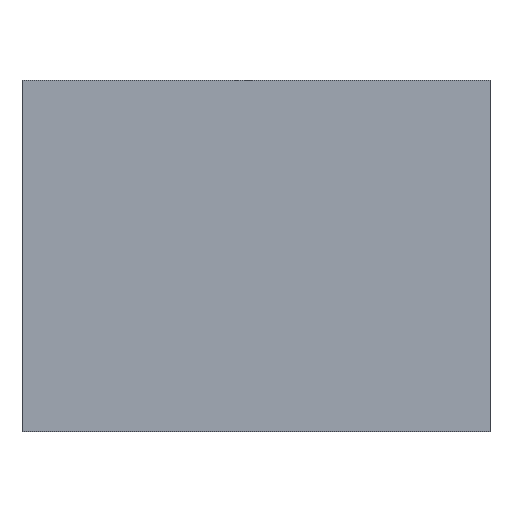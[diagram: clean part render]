
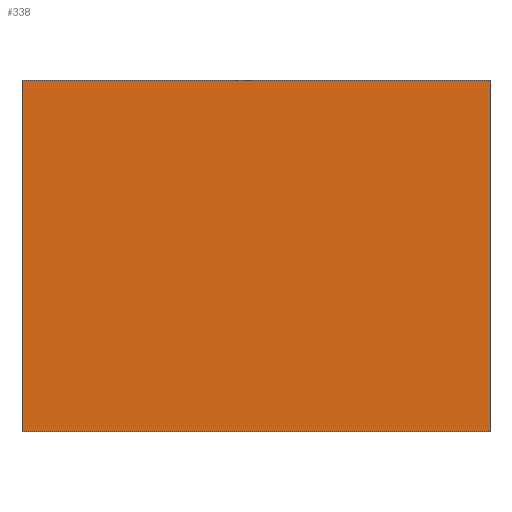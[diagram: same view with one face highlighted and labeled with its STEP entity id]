
A CAD part, top view. The second image highlights one B-rep face of the part: STEP entity #338.
In plain terms, the highlighted planar face has unit normal (0, 0, 1).
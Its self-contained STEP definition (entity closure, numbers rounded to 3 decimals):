
#24 = VERTEX_POINT('',#25);
#25 = CARTESIAN_POINT('',(-20.536,-15.408,0.));
#32 = PLANE('',#33);
#33 = AXIS2_PLACEMENT_3D('',#34,#35,#36);
#34 = CARTESIAN_POINT('',(-20.536,-15.408,-21.));
#35 = DIRECTION('',(1.,0.,0.));
#36 = DIRECTION('',(0.,0.,1.));
#44 = PLANE('',#45);
#45 = AXIS2_PLACEMENT_3D('',#46,#47,#48);
#46 = CARTESIAN_POINT('',(-20.536,-15.408,-21.));
#47 = DIRECTION('',(0.,1.,0.));
#48 = DIRECTION('',(0.,0.,1.));
#85 = VERTEX_POINT('',#86);
#86 = CARTESIAN_POINT('',(-20.536,15.408,0.));
#100 = PLANE('',#101);
#101 = AXIS2_PLACEMENT_3D('',#102,#103,#104);
#102 = CARTESIAN_POINT('',(-20.536,15.408,-21.));
#103 = DIRECTION('',(0.,1.,0.));
#104 = DIRECTION('',(0.,0.,1.));
#112 = EDGE_CURVE('',#24,#85,#113,.T.);
#113 = SURFACE_CURVE('',#114,(#118,#125),.PCURVE_S1.);
#114 = LINE('',#115,#116);
#115 = CARTESIAN_POINT('',(-20.536,-15.408,0.));
#116 = VECTOR('',#117,1.);
#117 = DIRECTION('',(0.,1.,0.));
#118 = PCURVE('',#32,#119);
#119 = DEFINITIONAL_REPRESENTATION('',(#120),#124);
#120 = LINE('',#121,#122);
#121 = CARTESIAN_POINT('',(21.,0.));
#122 = VECTOR('',#123,1.);
#123 = DIRECTION('',(0.,-1.));
#124 = ( GEOMETRIC_REPRESENTATION_CONTEXT(2) 
PARAMETRIC_REPRESENTATION_CONTEXT() REPRESENTATION_CONTEXT('2D SPACE',''
  ) );
#125 = PCURVE('',#126,#131);
#126 = PLANE('',#127);
#127 = AXIS2_PLACEMENT_3D('',#128,#129,#130);
#128 = CARTESIAN_POINT('',(-20.536,-15.408,0.));
#129 = DIRECTION('',(0.,0.,1.));
#130 = DIRECTION('',(1.,0.,0.));
#131 = DEFINITIONAL_REPRESENTATION('',(#132),#136);
#132 = LINE('',#133,#134);
#133 = CARTESIAN_POINT('',(0.,0.));
#134 = VECTOR('',#135,1.);
#135 = DIRECTION('',(0.,1.));
#136 = ( GEOMETRIC_REPRESENTATION_CONTEXT(2) 
PARAMETRIC_REPRESENTATION_CONTEXT() REPRESENTATION_CONTEXT('2D SPACE',''
  ) );
#144 = VERTEX_POINT('',#145);
#145 = CARTESIAN_POINT('',(20.536,-15.408,0.));
#152 = PLANE('',#153);
#153 = AXIS2_PLACEMENT_3D('',#154,#155,#156);
#154 = CARTESIAN_POINT('',(20.536,-15.408,-21.));
#155 = DIRECTION('',(1.,0.,0.));
#156 = DIRECTION('',(0.,0.,1.));
#195 = VERTEX_POINT('',#196);
#196 = CARTESIAN_POINT('',(20.536,15.408,0.));
#217 = EDGE_CURVE('',#144,#195,#218,.T.);
#218 = SURFACE_CURVE('',#219,(#223,#230),.PCURVE_S1.);
#219 = LINE('',#220,#221);
#220 = CARTESIAN_POINT('',(20.536,-15.408,0.));
#221 = VECTOR('',#222,1.);
#222 = DIRECTION('',(0.,1.,0.));
#223 = PCURVE('',#152,#224);
#224 = DEFINITIONAL_REPRESENTATION('',(#225),#229);
#225 = LINE('',#226,#227);
#226 = CARTESIAN_POINT('',(21.,0.));
#227 = VECTOR('',#228,1.);
#228 = DIRECTION('',(0.,-1.));
#229 = ( GEOMETRIC_REPRESENTATION_CONTEXT(2) 
PARAMETRIC_REPRESENTATION_CONTEXT() REPRESENTATION_CONTEXT('2D SPACE',''
  ) );
#230 = PCURVE('',#126,#231);
#231 = DEFINITIONAL_REPRESENTATION('',(#232),#236);
#232 = LINE('',#233,#234);
#233 = CARTESIAN_POINT('',(41.071,0.));
#234 = VECTOR('',#235,1.);
#235 = DIRECTION('',(0.,1.));
#236 = ( GEOMETRIC_REPRESENTATION_CONTEXT(2) 
PARAMETRIC_REPRESENTATION_CONTEXT() REPRESENTATION_CONTEXT('2D SPACE',''
  ) );
#263 = EDGE_CURVE('',#24,#144,#264,.T.);
#264 = SURFACE_CURVE('',#265,(#269,#276),.PCURVE_S1.);
#265 = LINE('',#266,#267);
#266 = CARTESIAN_POINT('',(-20.536,-15.408,0.));
#267 = VECTOR('',#268,1.);
#268 = DIRECTION('',(1.,0.,0.));
#269 = PCURVE('',#44,#270);
#270 = DEFINITIONAL_REPRESENTATION('',(#271),#275);
#271 = LINE('',#272,#273);
#272 = CARTESIAN_POINT('',(21.,0.));
#273 = VECTOR('',#274,1.);
#274 = DIRECTION('',(0.,1.));
#275 = ( GEOMETRIC_REPRESENTATION_CONTEXT(2) 
PARAMETRIC_REPRESENTATION_CONTEXT() REPRESENTATION_CONTEXT('2D SPACE',''
  ) );
#276 = PCURVE('',#126,#277);
#277 = DEFINITIONAL_REPRESENTATION('',(#278),#282);
#278 = LINE('',#279,#280);
#279 = CARTESIAN_POINT('',(0.,0.));
#280 = VECTOR('',#281,1.);
#281 = DIRECTION('',(1.,0.));
#282 = ( GEOMETRIC_REPRESENTATION_CONTEXT(2) 
PARAMETRIC_REPRESENTATION_CONTEXT() REPRESENTATION_CONTEXT('2D SPACE',''
  ) );
#310 = EDGE_CURVE('',#85,#195,#311,.T.);
#311 = SURFACE_CURVE('',#312,(#316,#323),.PCURVE_S1.);
#312 = LINE('',#313,#314);
#313 = CARTESIAN_POINT('',(-20.536,15.408,0.));
#314 = VECTOR('',#315,1.);
#315 = DIRECTION('',(1.,0.,0.));
#316 = PCURVE('',#100,#317);
#317 = DEFINITIONAL_REPRESENTATION('',(#318),#322);
#318 = LINE('',#319,#320);
#319 = CARTESIAN_POINT('',(21.,0.));
#320 = VECTOR('',#321,1.);
#321 = DIRECTION('',(0.,1.));
#322 = ( GEOMETRIC_REPRESENTATION_CONTEXT(2) 
PARAMETRIC_REPRESENTATION_CONTEXT() REPRESENTATION_CONTEXT('2D SPACE',''
  ) );
#323 = PCURVE('',#126,#324);
#324 = DEFINITIONAL_REPRESENTATION('',(#325),#329);
#325 = LINE('',#326,#327);
#326 = CARTESIAN_POINT('',(0.,30.815));
#327 = VECTOR('',#328,1.);
#328 = DIRECTION('',(1.,0.));
#329 = ( GEOMETRIC_REPRESENTATION_CONTEXT(2) 
PARAMETRIC_REPRESENTATION_CONTEXT() REPRESENTATION_CONTEXT('2D SPACE',''
  ) );
#338 = ADVANCED_FACE('',(#339),#126,.T.);
#339 = FACE_BOUND('',#340,.T.);
#340 = EDGE_LOOP('',(#341,#342,#343,#344));
#341 = ORIENTED_EDGE('',*,*,#112,.F.);
#342 = ORIENTED_EDGE('',*,*,#263,.T.);
#343 = ORIENTED_EDGE('',*,*,#217,.T.);
#344 = ORIENTED_EDGE('',*,*,#310,.F.);
